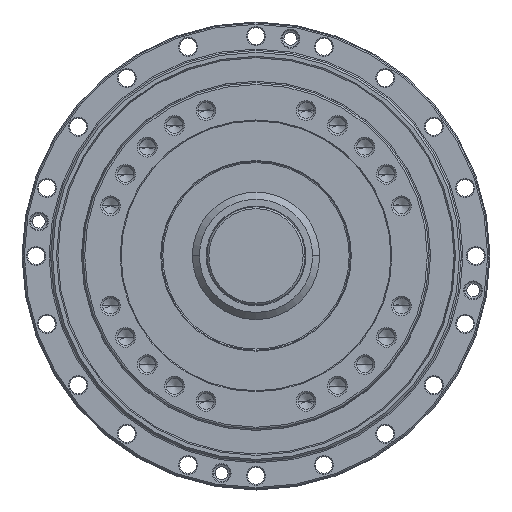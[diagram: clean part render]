
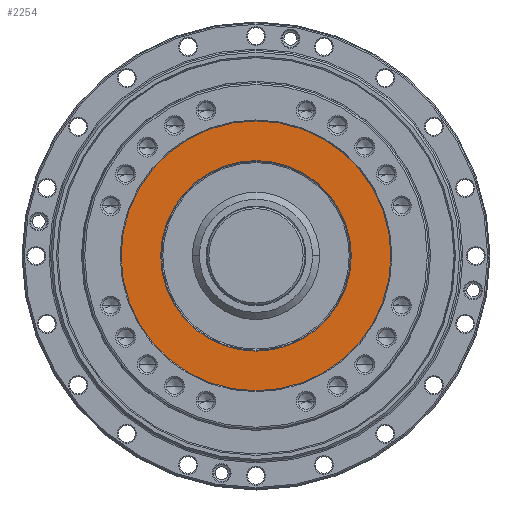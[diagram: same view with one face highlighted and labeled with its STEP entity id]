
A CAD part, top view. The second image highlights one B-rep face of the part: STEP entity #2254.
In plain terms, the highlighted planar face has unit normal (0, 0, 1).
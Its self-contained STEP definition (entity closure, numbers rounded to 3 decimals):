
#649 = VERTEX_POINT ( 'NONE', #11561 ) ;
#906 = VERTEX_POINT ( 'NONE', #9922 ) ;
#1187 = FACE_OUTER_BOUND ( 'NONE', #9467, .T. ) ;
#1305 = DIRECTION ( 'NONE',  ( 0., 0., 1. ) ) ;
#1927 = DIRECTION ( 'NONE',  ( 0., 0., -1. ) ) ;
#1993 = FACE_BOUND ( 'NONE', #4342, .T. ) ;
#2254 = ADVANCED_FACE ( 'NONE', ( #1993, #1187 ), #13124, .F. ) ;
#2470 = CARTESIAN_POINT ( 'NONE',  ( 0., 0., 39.5 ) ) ;
#3545 = DIRECTION ( 'NONE',  ( 1., 0., 0. ) ) ;
#3595 = VERTEX_POINT ( 'NONE', #7390 ) ;
#3632 = CARTESIAN_POINT ( 'NONE',  ( 0., 0., 39.5 ) ) ;
#4275 = CIRCLE ( 'NONE', #9781, 71.5 ) ;
#4342 = EDGE_LOOP ( 'NONE', ( #13148, #8341 ) ) ;
#4484 = DIRECTION ( 'NONE',  ( 0., 0., -1. ) ) ;
#4962 = EDGE_CURVE ( 'NONE', #9399, #906, #5510, .T. ) ;
#5094 = CARTESIAN_POINT ( 'NONE',  ( 0., 0., 39.5 ) ) ;
#5510 = CIRCLE ( 'NONE', #10467, 50.5 ) ;
#5684 = DIRECTION ( 'NONE',  ( 1., 0., 0. ) ) ;
#6786 = DIRECTION ( 'NONE',  ( 0., 0., 1. ) ) ;
#6823 = CARTESIAN_POINT ( 'NONE',  ( 0., 0., 39.5 ) ) ;
#7153 = DIRECTION ( 'NONE',  ( 1., 0., 0. ) ) ;
#7390 = CARTESIAN_POINT ( 'NONE',  ( -71.5, 0., 39.5 ) ) ;
#8058 = DIRECTION ( 'NONE',  ( 0., 0., -1. ) ) ;
#8341 = ORIENTED_EDGE ( 'NONE', *, *, #4962, .T. ) ;
#9007 = DIRECTION ( 'NONE',  ( -1., 0., 0. ) ) ;
#9399 = VERTEX_POINT ( 'NONE', #11889 ) ;
#9467 = EDGE_LOOP ( 'NONE', ( #11029, #11688 ) ) ;
#9643 = EDGE_CURVE ( 'NONE', #3595, #649, #12518, .T. ) ;
#9781 = AXIS2_PLACEMENT_3D ( 'NONE', #2470, #1305, #3545 ) ;
#9913 = CIRCLE ( 'NONE', #10880, 50.5 ) ;
#9922 = CARTESIAN_POINT ( 'NONE',  ( 50.5, 0., 39.5 ) ) ;
#10467 = AXIS2_PLACEMENT_3D ( 'NONE', #5094, #1927, #7153 ) ;
#10880 = AXIS2_PLACEMENT_3D ( 'NONE', #3632, #4484, #5684 ) ;
#10993 = EDGE_CURVE ( 'NONE', #906, #9399, #9913, .T. ) ;
#11029 = ORIENTED_EDGE ( 'NONE', *, *, #12217, .T. ) ;
#11094 = DIRECTION ( 'NONE',  ( 1., 0., 0. ) ) ;
#11422 = AXIS2_PLACEMENT_3D ( 'NONE', #13221, #8058, #9007 ) ;
#11561 = CARTESIAN_POINT ( 'NONE',  ( 71.5, 0., 39.5 ) ) ;
#11688 = ORIENTED_EDGE ( 'NONE', *, *, #9643, .T. ) ;
#11889 = CARTESIAN_POINT ( 'NONE',  ( -50.5, 0., 39.5 ) ) ;
#12217 = EDGE_CURVE ( 'NONE', #649, #3595, #4275, .T. ) ;
#12518 = CIRCLE ( 'NONE', #13703, 71.5 ) ;
#13124 = PLANE ( 'NONE',  #11422 ) ;
#13148 = ORIENTED_EDGE ( 'NONE', *, *, #10993, .T. ) ;
#13221 = CARTESIAN_POINT ( 'NONE',  ( 70., 0., 39.5 ) ) ;
#13703 = AXIS2_PLACEMENT_3D ( 'NONE', #6823, #6786, #11094 ) ;
